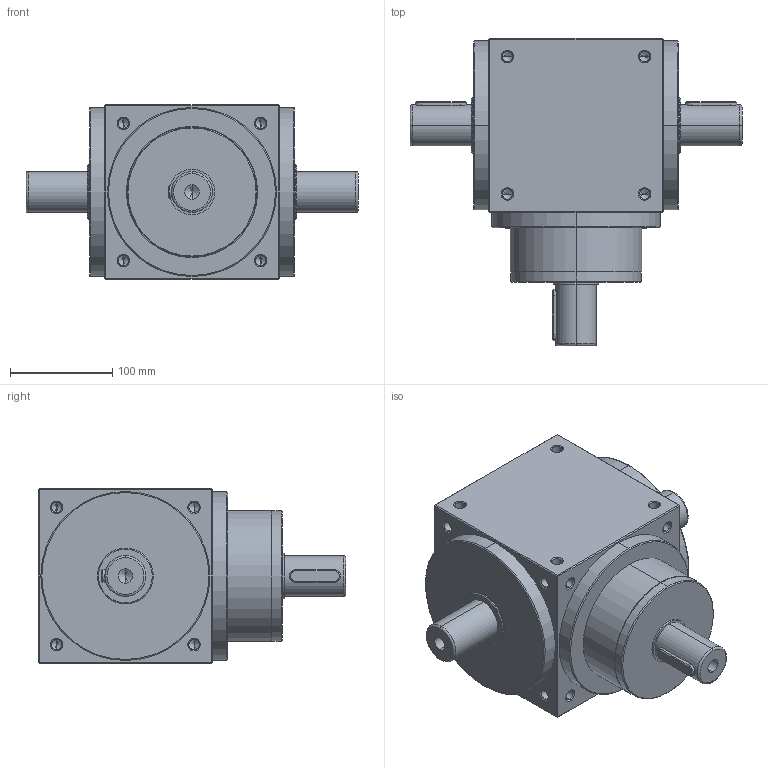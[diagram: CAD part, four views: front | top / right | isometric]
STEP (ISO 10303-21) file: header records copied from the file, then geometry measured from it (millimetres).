
FILE_DESCRIPTION (( 'STEP AP214' ), '1' );
FILE_NAME ('AT170-L-L1.STEP', '2020-03-30T01:15:00', ( 'User' ), ( 'Far123' ), 'SwSTEP 2.0', 'SolidWorks 2015', '' );
FILE_SCHEMA (( 'AUTOMOTIVE_DESIGN' ));
Length unit declared in the file: millimetre
Products named in the file (1): AT170-L-L1
Bounding box: 324 x 300 x 170 mm (x, y, z)
Volume: 6731150.5 mm3; surface area: 260362.5 mm2
Topology: 1 solids, 1 shells, 308 faces, 784 edges, 433 vertices
Faces by surface type: cylinder 130, cone 116, plane 52, torus 10
Entity records: 10058 total; most frequent: CARTESIAN_POINT 2206, ORIENTED_EDGE 1460, DIRECTION 1422, EDGE_CURVE 730, AXIS2_PLACEMENT_3D 549, VERTEX_POINT 433, EDGE_LOOP 349, LINE 324
